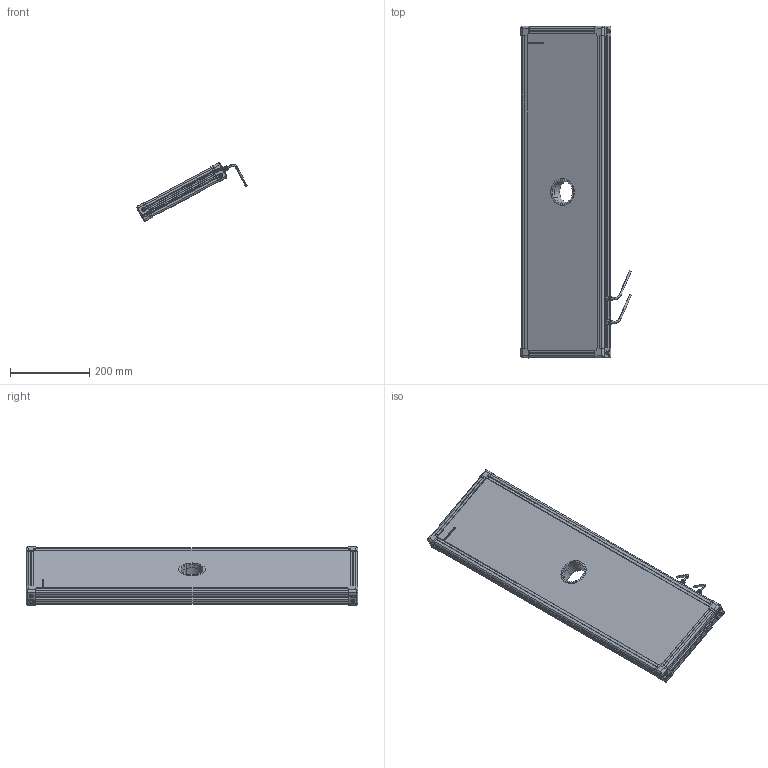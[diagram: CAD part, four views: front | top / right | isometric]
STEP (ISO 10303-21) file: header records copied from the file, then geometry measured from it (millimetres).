
FILE_DESCRIPTION (( 'STEP AP214' ), '1' );
FILE_NAME ('EFFI-BL-200-800-ZZZ-2M12.STEP', '2021-06-21T11:06:04', ( '' ), ( '' ), 'SwSTEP 2.0', 'SolidWorks 2021', '' );
FILE_SCHEMA (( 'AUTOMOTIVE_DESIGN' ));
Length unit declared in the file: millimetre
Products named in the file (13): cordon_Avec cable; profile X_PERCE; 000590; petite joue; profile Y_PERCE; Assemblage Ø58.5; EFFI-BL-200-800-ZZZ-2M12; Pièce13^EFFI-BL-XXX-YYY-ZZZ (2 connecteurs) Ø58.5; 001038; petite joue + vis; 001037; 000629
Assembly tree (20 placements, depth 3):
  EFFI-BL-200-800-ZZZ-2M12
    profile X_PERCE  x2
    profile Y_PERCE
    profile Y_PERCE
    Pièce13^EFFI-BL-XXX-YYY-ZZZ (2 connecteurs) Ø58.5
    petite joue + vis  x4
      petite joue
      000629
    Assemblage Ø58.5
      001037
      001038
      000590  x3
    cordon_Avec cable  x2
Bounding box: 278.11 x 839 x 146.82 mm (x, y, z)
Volume: 6826366.2 mm3; surface area: 750261.9 mm2
Topology: 22 solids, 34 shells, 4044 faces, 10746 edges, 7052 vertices
Faces by surface type: plane 2495, cylinder 739, bspline 603, cone 154, torus 45, sphere 8
Entity records: 56929 total; most frequent: CARTESIAN_POINT 22745, ORIENTED_EDGE 7120, DIRECTION 5873, EDGE_CURVE 3564, VECTOR 2489, LINE 2489, VERTEX_POINT 2343, AXIS2_PLACEMENT_3D 1692
